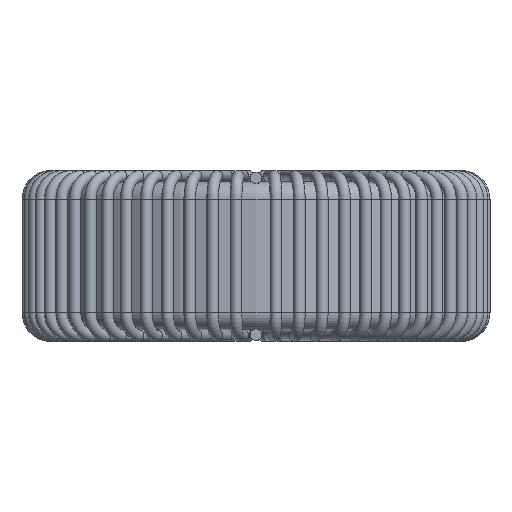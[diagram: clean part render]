
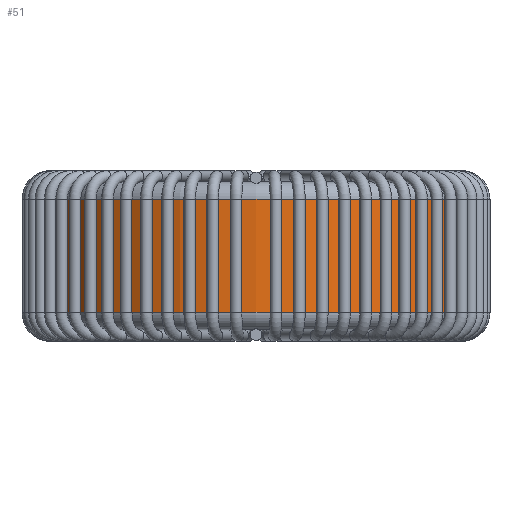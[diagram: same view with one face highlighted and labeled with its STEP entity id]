
A CAD part, front view. The second image highlights one B-rep face of the part: STEP entity #51.
In plain terms, the highlighted cylindrical face has radius 11.43 mm (diameter 22.86 mm), a full revolution.
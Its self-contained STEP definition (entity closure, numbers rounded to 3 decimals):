
#51 = ADVANCED_FACE('',(#52),#79,.T.);
#52 = FACE_BOUND('',#53,.F.);
#53 = EDGE_LOOP('',(#54,#64,#71,#72));
#54 = ORIENTED_EDGE('',*,*,#55,.T.);
#55 = EDGE_CURVE('',#56,#58,#60,.T.);
#56 = VERTEX_POINT('',#57);
#57 = CARTESIAN_POINT('',(11.43,0.,-2.91));
#58 = VERTEX_POINT('',#59);
#59 = CARTESIAN_POINT('',(11.43,0.,2.91));
#60 = LINE('',#61,#62);
#61 = CARTESIAN_POINT('',(11.43,0.,-3.81));
#62 = VECTOR('',#63,1.);
#63 = DIRECTION('',(0.,0.,1.));
#64 = ORIENTED_EDGE('',*,*,#65,.T.);
#65 = EDGE_CURVE('',#58,#58,#66,.T.);
#66 = CIRCLE('',#67,11.43);
#67 = AXIS2_PLACEMENT_3D('',#68,#69,#70);
#68 = CARTESIAN_POINT('',(0.,0.,2.91));
#69 = DIRECTION('',(0.,0.,1.));
#70 = DIRECTION('',(1.,0.,-0.));
#71 = ORIENTED_EDGE('',*,*,#55,.F.);
#72 = ORIENTED_EDGE('',*,*,#73,.F.);
#73 = EDGE_CURVE('',#56,#56,#74,.T.);
#74 = CIRCLE('',#75,11.43);
#75 = AXIS2_PLACEMENT_3D('',#76,#77,#78);
#76 = CARTESIAN_POINT('',(0.,0.,-2.91));
#77 = DIRECTION('',(0.,0.,1.));
#78 = DIRECTION('',(1.,0.,-0.));
#79 = CYLINDRICAL_SURFACE('',#80,11.43);
#80 = AXIS2_PLACEMENT_3D('',#81,#82,#83);
#81 = CARTESIAN_POINT('',(0.,0.,-3.81));
#82 = DIRECTION('',(-0.,-0.,-1.));
#83 = DIRECTION('',(1.,0.,0.));
